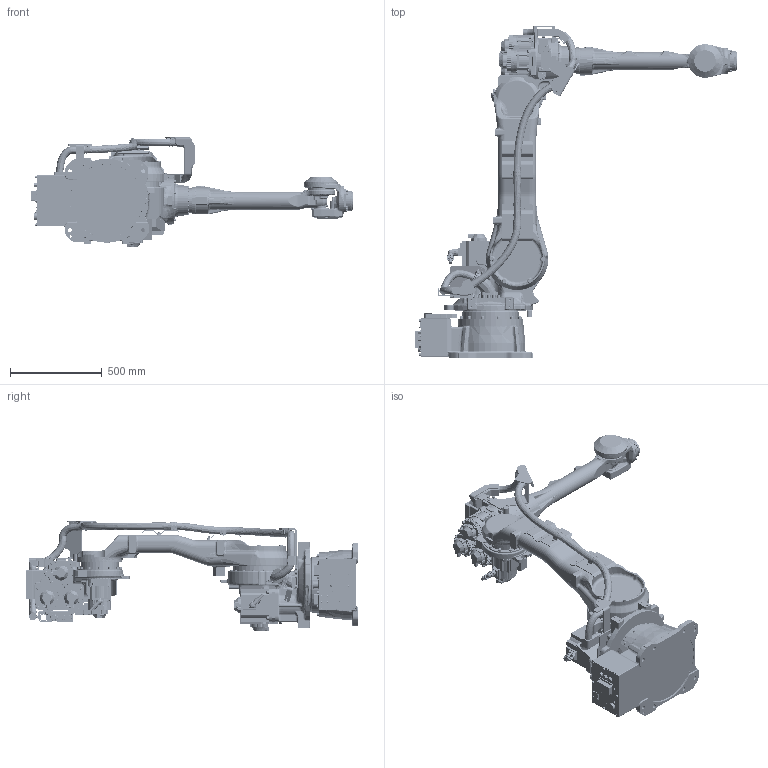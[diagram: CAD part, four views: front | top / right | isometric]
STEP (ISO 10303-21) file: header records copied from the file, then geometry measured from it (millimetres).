
FILE_DESCRIPTION((''),'2;1');
FILE_NAME('ASSY_VIEW_YR-1-06VX50-A00_ASM','2019-05-09T',('kataokah'),('YASKAWA ELECTRIC CORPORATION'),'PRO/ENGINEER BY PARAMETRIC TECHNOLOGY CORPORATION, 2015030','PRO/ENGINEER BY PARAMETRIC TECHNOLOGY CORPORATION, 2015030','');
FILE_SCHEMA(('CONFIG_CONTROL_DESIGN'));
Products named in the file (8): BASE_VIEW_YR-1-06VX50-A00; S_VIEW_YR-1-06VX50-A00; L_VIEW_YR-1-06VX50-A00; U_VIEW_YR-1-06VX50-A00; R_VIEW_YR-1-06VX50-A00; B_VIEW_YR-1-06VX50-A00; T__VIEW_YR-1-06VX50-A00; ASSY_VIEW_YR-1-06VX50-A00_ASM
Assembly tree (7 placements, depth 2):
  ASSY_VIEW_YR-1-06VX50-A00_ASM
    BASE_VIEW_YR-1-06VX50-A00
    S_VIEW_YR-1-06VX50-A00
    L_VIEW_YR-1-06VX50-A00
    U_VIEW_YR-1-06VX50-A00
    R_VIEW_YR-1-06VX50-A00
    B_VIEW_YR-1-06VX50-A00
    T__VIEW_YR-1-06VX50-A00
Bounding box: 1757.85 x 1811 x 600.7 mm (x, y, z)
Volume: 140898618.3 mm3; surface area: 6141029.2 mm2
Topology: 13 solids, 72 shells, 13115 faces, 33058 edges, 20665 vertices
Faces by surface type: cylinder 4981, plane 4362, bspline 1825, cone 1061, torus 721, sphere 141, extrusion 16, revolution 8
Entity records: 549011 total; most frequent: CARTESIAN_POINT 242162, ORIENTED_EDGE 65848, DIRECTION 62848, EDGE_CURVE 32976, AXIS2_PLACEMENT_3D 24733, VERTEX_POINT 20665, EDGE_LOOP 14111, CIRCLE 13436
